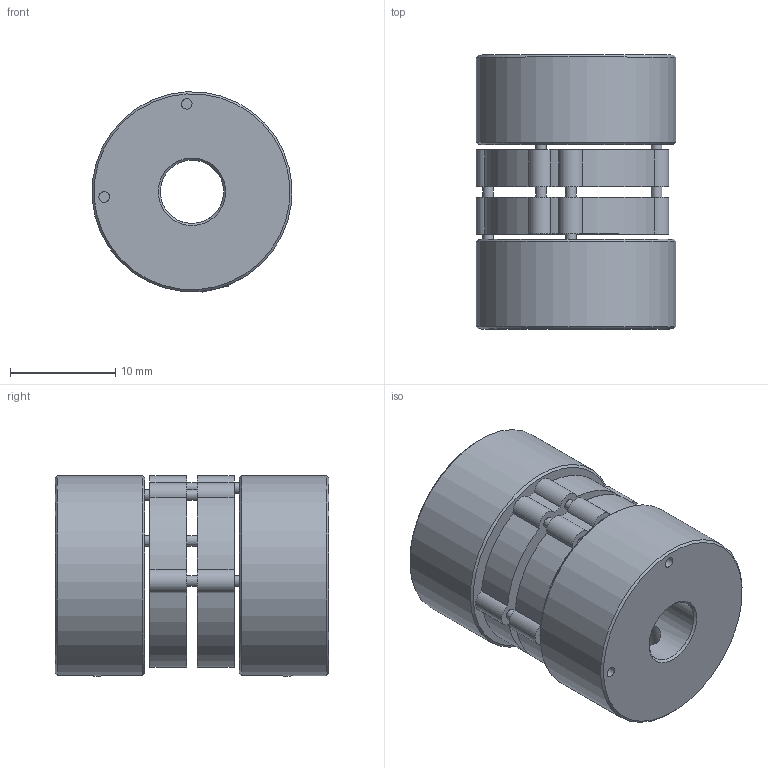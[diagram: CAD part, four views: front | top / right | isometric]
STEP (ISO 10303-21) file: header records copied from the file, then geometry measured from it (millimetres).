
FILE_DESCRIPTION (( 'STEP AP214' ), '1' );
FILE_NAME ('9403.6_6.STEP', '2021-05-03T08:46:14', ( '' ), ( '' ), 'SwSTEP 2.0', 'SolidWorks 2019', '' );
FILE_SCHEMA (( 'AUTOMOTIVE_DESIGN' ));
Length unit declared in the file: millimetre
Products named in the file (4): 9403.6_6; GIU.9403.E; GIU.9403_Grano; GIU.9403.M6
Assembly tree (5 placements, depth 2):
  9403.6_6
    GIU.9403.E
    GIU.9403.M6  x2
    GIU.9403_Grano  x2
Bounding box: 18.97 x 26 x 19.01 mm (x, y, z)
Volume: 5409 mm3; surface area: 4008.8 mm2
Topology: 14 solids, 14 shells, 102 faces, 213 edges, 141 vertices
Faces by surface type: cylinder 46, plane 42, cone 14
Full cylindrical faces by diameter (mm): 1 x20, 2.5 x2, 3 x2, 6 x2, 10 x2, 19 x2
Entity records: 2404 total; most frequent: CARTESIAN_POINT 394, DIRECTION 376, ORIENTED_EDGE 242, AXIS2_PLACEMENT_3D 171, EDGE_LOOP 138, EDGE_CURVE 121, FACE_OUTER_BOUND 102, VERTEX_POINT 99
